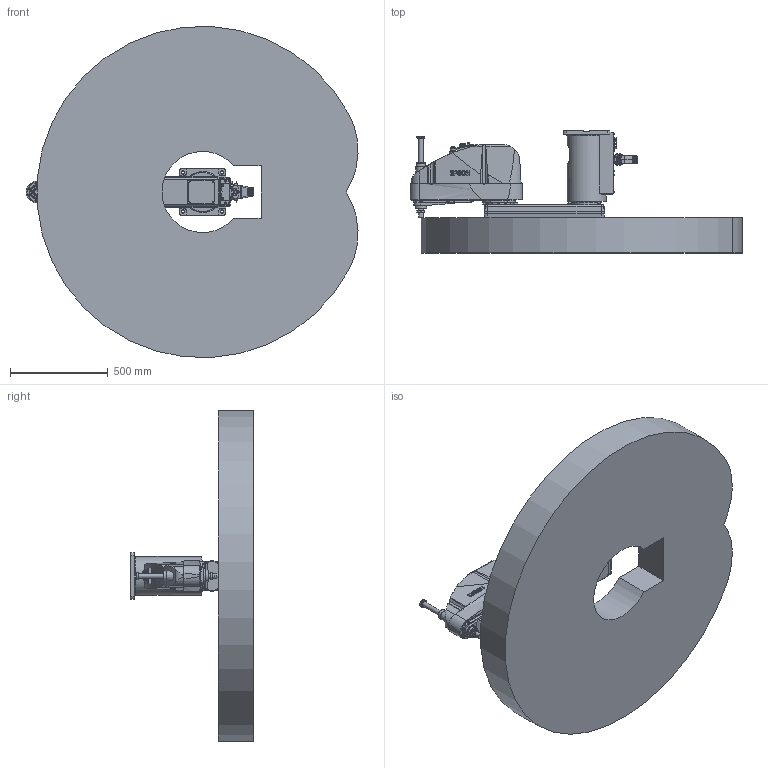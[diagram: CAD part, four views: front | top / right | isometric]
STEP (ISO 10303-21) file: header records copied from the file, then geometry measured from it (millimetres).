
FILE_DESCRIPTION( ( 'STEP AP214' ), '1' );
FILE_NAME( 'C:/Users/9607552/Desktop/GX10-B851SR_straight.stp', '2023-08-01T09:18:04', ( '' ), ( '' ), ' ', 'PARTsolutions', ' ' );
FILE_SCHEMA( ( 'AUTOMOTIVE_DESIGN { 1 0 10303 214 1 1 1 1 }' ) );
Length unit declared in the file: millimetre
Products named in the file (7): GX10-B851SRS-W; _Base sr; _Straight-B; _J1 Arm GX10-450 r/w; _J2 Arm GX10-s; _J3 Arm GX10-s (1); _GX10_20B-34_1
Assembly tree (6 placements, depth 2):
  GX10-B851SRS-W
    _Base sr
    _Straight-B
    _J1 Arm GX10-450 r/w
    _J2 Arm GX10-s
    _J3 Arm GX10-s (1)
    _GX10_20B-34_1
Bounding box: 1702.55 x 627.5 x 1697.41 mm (x, y, z)
Volume: 414291672.3 mm3; surface area: 6803255.7 mm2
Topology: 6 solids, 6 shells, 2504 faces, 6123 edges, 3994 vertices
Faces by surface type: plane 1313, cylinder 759, cone 334, torus 65, bspline 32, sphere 1
Full cylindrical faces by diameter (mm): 1 x24, 1.18 x55, 3 x32, 3.242 x10, 3.3 x4, 4.2 x4, 4.8 x4, 5.1 x4, 5.25 x2, 5.34 x8, 5.4 x5, 5.5 x16, 6 x1, 6.2 x4, 6.647 x2, 7 x31, 8 x9, 8.5 x2, 9 x4, 10 x32, 11 x14, 12 x6, 12.25 x1, 13 x2, 14 x8, 14.25 x1, 16 x6, 18 x2, 20.4 x1, 21.7 x2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
Entity records: 94906 total; most frequent: CARTESIAN_POINT 18200, DIRECTION 11667, ORIENTED_EDGE 10906, EDGE_CURVE 5453, AXIS2_PLACEMENT_3D 4467, VERTEX_POINT 3904, EDGE_LOOP 3473, FACE_OUTER_BOUND 2875
